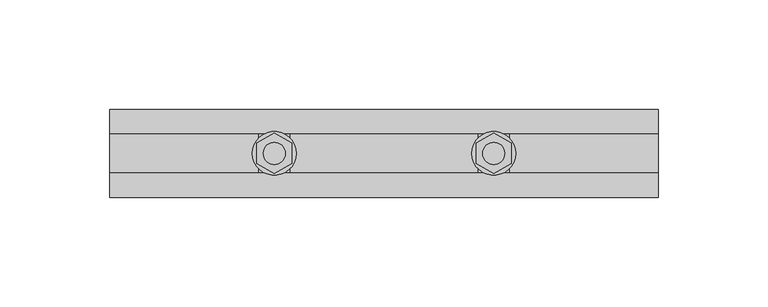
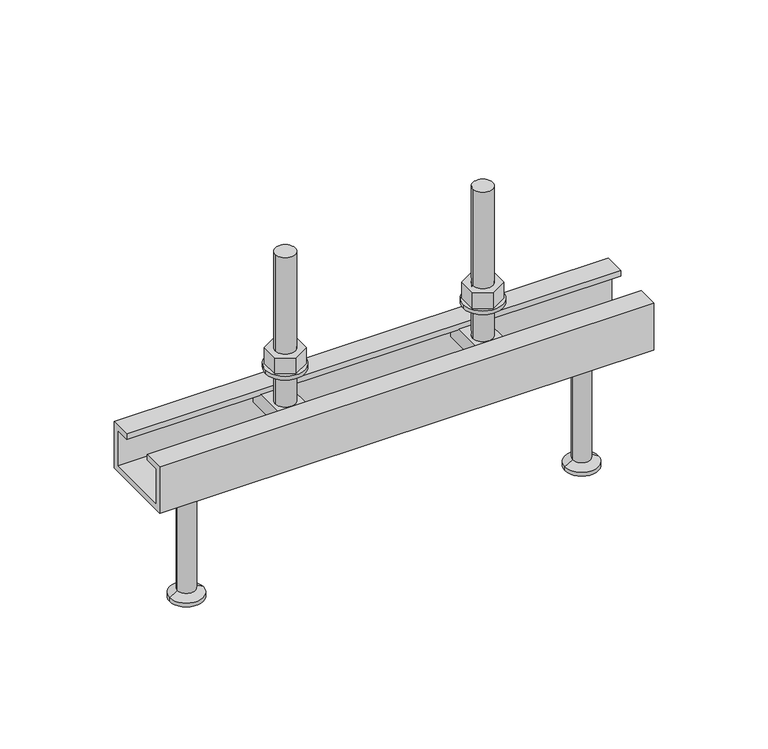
"""IFC4 building model written with IfcOpenShell, lengths in millimetres: fastener geometry, JTA-K JORDAHL® AnchorChannels : JTA-K L=250 mm."""

from ifc_helpers import new_model, si_unit, point, frame, frame_2d, origin, place, context, project, spatial, polyline, circle_curve, trimmed, segment, composite_curve, outline, extrude, source, transform, mapped, element, save
from ifc_brep_helpers import plane_surface, cylinder_surface, revolved_surface, advanced_brep


def fastener_072ff4f7(model_context):
    return source(origin(), model_context, "Body", "SolidModel", [
        extrude(outline(polyline([(175.0, -9.2376043), (167.0, -4.6188022), (167.0, 4.6188022), (175.0, 9.2376043), (183.0, 4.6188022), (183.0, -4.6188022), (175.0, -9.2376043)]), holes=[composite_curve([segment(trimmed(circle_curve(frame_2d((175.0, 0.0)), 5.0), [point((170.0, 0.0))], [point((180.0, 0.0))], True, "CARTESIAN"), True, "CONTINUOUS"), segment(trimmed(circle_curve(frame_2d((175.0, 0.0)), 5.0), [point((180.0, 0.0))], [point((170.0, 0.0))], True, "CARTESIAN"), True, "CONTINUOUS")], self_intersect=False)]), frame((0.0, 0.0, 17.0), z_axis=(0.0, 0.0, 1.0), x_axis=(1.0, 0.0, 0.0)), (0.0, 0.0, 1.0), 8.4),
        extrude(outline(composite_curve([segment(trimmed(circle_curve(frame_2d((175.0, 0.0)), 10.0), [point((165.0, 0.0))], [point((185.0, 0.0))], False, "CARTESIAN"), True, "CONTINUOUS"), segment(trimmed(circle_curve(frame_2d((175.0, 0.0)), 10.0), [point((185.0, 0.0))], [point((165.0, 0.0))], False, "CARTESIAN"), True, "CONTINUOUS")], self_intersect=False), holes=[composite_curve([segment(trimmed(circle_curve(frame_2d((175.0, 0.0)), 5.25), [point((169.75, 0.0))], [point((180.25, 0.0))], True, "CARTESIAN"), True, "CONTINUOUS"), segment(trimmed(circle_curve(frame_2d((175.0, 0.0)), 5.25), [point((180.25, 0.0))], [point((169.75, 0.0))], True, "CARTESIAN"), True, "CONTINUOUS")], self_intersect=False)]), frame((0.0, 0.0, 15.0), z_axis=(0.0, 0.0, 1.0), x_axis=(1.0, 0.0, 0.0)), (0.0, 0.0, 1.0), 2.0),
        extrude(outline(polyline([(75.0, -9.2376043), (67.0, -4.6188022), (67.0, 4.6188022), (75.0, 9.2376043), (83.0, 4.6188022), (83.0, -4.6188022), (75.0, -9.2376043)]), holes=[composite_curve([segment(trimmed(circle_curve(frame_2d((75.0, 0.0)), 5.0), [point((70.0, 0.0))], [point((80.0, 0.0))], True, "CARTESIAN"), True, "CONTINUOUS"), segment(trimmed(circle_curve(frame_2d((75.0, 0.0)), 5.0), [point((80.0, 0.0))], [point((70.0, 0.0))], True, "CARTESIAN"), True, "CONTINUOUS")], self_intersect=False)]), frame((0.0, 0.0, 17.0), z_axis=(0.0, 0.0, 1.0), x_axis=(1.0, 0.0, 0.0)), (0.0, 0.0, 1.0), 8.4),
        extrude(outline(composite_curve([segment(trimmed(circle_curve(frame_2d((75.0, 0.0)), 10.0), [point((65.0, 0.0))], [point((85.0, 0.0))], False, "CARTESIAN"), True, "CONTINUOUS"), segment(trimmed(circle_curve(frame_2d((75.0, 0.0)), 10.0), [point((85.0, 0.0))], [point((65.0, 0.0))], False, "CARTESIAN"), True, "CONTINUOUS")], self_intersect=False), holes=[composite_curve([segment(trimmed(circle_curve(frame_2d((75.0, 0.0)), 5.25), [point((69.75, 0.0))], [point((80.25, 0.0))], True, "CARTESIAN"), True, "CONTINUOUS"), segment(trimmed(circle_curve(frame_2d((75.0, 0.0)), 5.25), [point((80.25, 0.0))], [point((69.75, 0.0))], True, "CARTESIAN"), True, "CONTINUOUS")], self_intersect=False)]), frame((0.0, 0.0, 15.0), z_axis=(0.0, 0.0, 1.0), x_axis=(1.0, 0.0, 0.0)), (0.0, 0.0, 1.0), 2.0),
        advanced_brep(
        [(182.0, -16.0, -3.0), (182.0, -16.0, -11.0), (182.0, 16.0, -11.0), (182.0, 16.0, -3.0), (168.0, -16.0, -3.0), (168.0, 16.0, -3.0), (168.0, 16.0, -11.0), (168.0, -16.0, -11.0), (180.0, 0.0, -3.0), (170.0, 0.0, -3.0), (170.0, 0.0, 77.0), (180.0, 0.0, 77.0)],
        [
            (0, 1),
            (1, 2),
            (2, 3),
            (3, 0),
            (4, 5),
            (5, 6),
            (6, 7),
            (7, 4),
            (3, 5),
            (4, 0),
            (8, 9, circle_curve(frame((175.0, 0.0, -3.0), z_axis=(0.0, 0.0, -1.0), x_axis=(1.0, 0.0, 0.0)), 5.0)),
            (9, 8, circle_curve(frame((175.0, 0.0, -3.0), z_axis=(0.0, 0.0, -1.0), x_axis=(1.0, 0.0, 0.0)), 5.0)),
            (2, 6),
            (1, 7),
            (10, 11, circle_curve(frame((175.0, 0.0, 77.0), z_axis=(0.0, 0.0, 1.0), x_axis=(1.0, 0.0, 0.0)), 5.0)),
            (11, 10, circle_curve(frame((175.0, 0.0, 77.0), z_axis=(0.0, 0.0, 1.0), x_axis=(1.0, 0.0, 0.0)), 5.0)),
            (11, 8),
            (9, 10),
        ],
        [
            plane_surface(frame((182.0, 16.0, -3.0), z_axis=(1.0, 0.0, 0.0), x_axis=(0.0, 1.0, 0.0))),
            plane_surface(frame((168.0, 16.0, -3.0), z_axis=(-1.0, 0.0, 0.0), x_axis=(0.0, -1.0, 0.0))),
            plane_surface(frame((182.0, -16.0, -3.0), z_axis=(0.0, 0.0, 1.0), x_axis=(-1.0, 0.0, 0.0))),
            plane_surface(frame((182.0, 16.0, -3.0), z_axis=(0.0, 1.0, 0.0), x_axis=(-1.0, 0.0, 0.0))),
            plane_surface(frame((182.0, 16.0, -11.0), z_axis=(0.0, 0.0, -1.0), x_axis=(-1.0, 0.0, 0.0))),
            plane_surface(frame((182.0, -16.0, -11.0), z_axis=(0.0, -1.0, 0.0), x_axis=(-1.0, 0.0, 0.0))),
            plane_surface(frame((180.0, 0.0, 77.0), z_axis=(0.0, 0.0, 1.0), x_axis=(0.0, -1.0, 0.0))),
            cylinder_surface(frame((175.0, 0.0, -3.0), z_axis=(0.0, 0.0, 1.0), x_axis=(1.0, 0.0, 0.0)), 5.0),
        ],
        [
            (0, [[1, 2, 3, 4]]),
            (1, [[5, 6, 7, 8]]),
            (2, [[9, -5, 10, -4], [11, 12]]),
            (3, [[13, -6, -9, -3]]),
            (4, [[14, -7, -13, -2]]),
            (5, [[-10, -8, -14, -1]]),
            (6, [[15, 16]]),
            (7, [[17, -12, 18, -16]]),
            (7, [[-18, -11, -17, -15]]),
        ],
    ),
        advanced_brep(
        [(82.0, -16.0, -3.0), (82.0, -16.0, -11.0), (82.0, 16.0, -11.0), (82.0, 16.0, -3.0), (68.0, -16.0, -3.0), (68.0, 16.0, -3.0), (68.0, 16.0, -11.0), (68.0, -16.0, -11.0), (80.0, 0.0, -3.0), (70.0, 0.0, -3.0), (70.0, 0.0, 77.0), (80.0, 0.0, 77.0)],
        [
            (0, 1),
            (1, 2),
            (2, 3),
            (3, 0),
            (4, 5),
            (5, 6),
            (6, 7),
            (7, 4),
            (3, 5),
            (4, 0),
            (8, 9, circle_curve(frame((75.0, 0.0, -3.0), z_axis=(0.0, 0.0, -1.0), x_axis=(1.0, 0.0, 0.0)), 5.0)),
            (9, 8, circle_curve(frame((75.0, 0.0, -3.0), z_axis=(0.0, 0.0, -1.0), x_axis=(1.0, 0.0, 0.0)), 5.0)),
            (2, 6),
            (1, 7),
            (10, 11, circle_curve(frame((75.0, 0.0, 77.0), z_axis=(0.0, 0.0, 1.0), x_axis=(1.0, 0.0, 0.0)), 5.0)),
            (11, 10, circle_curve(frame((75.0, 0.0, 77.0), z_axis=(0.0, 0.0, 1.0), x_axis=(1.0, 0.0, 0.0)), 5.0)),
            (11, 8),
            (9, 10),
        ],
        [
            plane_surface(frame((82.0, 16.0, -3.0), z_axis=(1.0, 0.0, 0.0), x_axis=(0.0, 1.0, 0.0))),
            plane_surface(frame((68.0, 16.0, -3.0), z_axis=(-1.0, 0.0, 0.0), x_axis=(0.0, -1.0, 0.0))),
            plane_surface(frame((82.0, -16.0, -3.0), z_axis=(0.0, 0.0, 1.0), x_axis=(-1.0, 0.0, 0.0))),
            plane_surface(frame((82.0, 16.0, -3.0), z_axis=(0.0, 1.0, 0.0), x_axis=(-1.0, 0.0, 0.0))),
            plane_surface(frame((82.0, 16.0, -11.0), z_axis=(0.0, 0.0, -1.0), x_axis=(-1.0, 0.0, 0.0))),
            plane_surface(frame((82.0, -16.0, -11.0), z_axis=(0.0, -1.0, 0.0), x_axis=(-1.0, 0.0, 0.0))),
            plane_surface(frame((80.0, 0.0, 77.0), z_axis=(0.0, 0.0, 1.0), x_axis=(0.0, -1.0, 0.0))),
            cylinder_surface(frame((75.0, 0.0, -3.0), z_axis=(0.0, 0.0, 1.0), x_axis=(1.0, 0.0, 0.0)), 5.0),
        ],
        [
            (0, [[1, 2, 3, 4]]),
            (1, [[5, 6, 7, 8]]),
            (2, [[9, -5, 10, -4], [11, 12]]),
            (3, [[13, -6, -9, -3]]),
            (4, [[14, -7, -13, -2]]),
            (5, [[-10, -8, -14, -1]]),
            (6, [[15, 16]]),
            (7, [[17, -12, 18, -16]]),
            (7, [[-18, -11, -17, -15]]),
        ],
    ),
        advanced_brep(
        [(225.0, 0.0, -25.0), (211.5, 0.0, -25.0), (238.5, 0.0, -25.0), (216.5, 0.0, -90.0), (225.0, 0.0, -90.0), (233.5, 0.0, -90.0), (216.5, 0.0, -88.0), (233.5, 0.0, -88.0), (220.5, 0.0, -85.6905989), (229.5, 0.0, -85.6905989), (220.5, 0.0, -27.5), (229.5, 0.0, -27.5)],
        [
            (0, 1),
            (1, 2, circle_curve(frame((225.0, 0.0, -25.0), z_axis=(0.0, 0.0, 1.0), x_axis=(1.0, 0.0, 0.0)), 13.5)),
            (2, 0),
            (2, 1, circle_curve(frame((225.0, 0.0, -25.0), z_axis=(0.0, 0.0, 1.0), x_axis=(1.0, 0.0, 0.0)), 13.5)),
            (3, 4),
            (4, 5),
            (5, 3, circle_curve(frame((225.0, 0.0, -90.0), z_axis=(0.0, 0.0, -1.0), x_axis=(1.0, 0.0, 0.0)), 8.5)),
            (3, 5, circle_curve(frame((225.0, 0.0, -90.0), z_axis=(0.0, 0.0, -1.0), x_axis=(1.0, 0.0, 0.0)), 8.5)),
            (6, 3),
            (5, 7),
            (7, 6, circle_curve(frame((225.0, 0.0, -88.0), z_axis=(0.0, 0.0, -1.0), x_axis=(1.0, 0.0, 0.0)), 8.5)),
            (6, 7, circle_curve(frame((225.0, 0.0, -88.0), z_axis=(0.0, 0.0, -1.0), x_axis=(1.0, 0.0, 0.0)), 8.5)),
            (8, 6),
            (7, 9),
            (9, 8, circle_curve(frame((225.0, 0.0, -85.6905989), z_axis=(0.0, 0.0, -1.0), x_axis=(1.0, 0.0, 0.0)), 4.5)),
            (8, 9, circle_curve(frame((225.0, 0.0, -85.6905989), z_axis=(0.0, 0.0, -1.0), x_axis=(1.0, 0.0, 0.0)), 4.5)),
            (10, 8),
            (9, 11),
            (11, 10, circle_curve(frame((225.0, 0.0, -27.5), z_axis=(0.0, 0.0, -1.0), x_axis=(1.0, 0.0, 0.0)), 4.5)),
            (10, 11, circle_curve(frame((225.0, 0.0, -27.5), z_axis=(0.0, 0.0, -1.0), x_axis=(1.0, 0.0, 0.0)), 4.5)),
            (1, 10),
            (11, 2),
        ],
        [
            plane_surface(frame((225.0, 0.0, -25.0), z_axis=(0.0, 0.0, 1.0), x_axis=(1.0, 0.0, 0.0))),
            plane_surface(frame((225.0, 0.0, -90.0), z_axis=(0.0, 0.0, -1.0), x_axis=(1.0, 0.0, 0.0))),
            cylinder_surface(frame((225.0, 0.0, 2279.3150031), z_axis=(0.0, 0.0, 1.0), x_axis=(1.0, 0.0, 0.0)), 8.5),
            revolved_surface(polyline([(233.5, 0.0, -88.0), (229.5, 0.0, -85.6905989)]), (225.0, 0.0, 2279.3150031), (0.0, 0.0, 1.0)),
            cylinder_surface(frame((225.0, 0.0, 2279.3150031), z_axis=(0.0, 0.0, 1.0), x_axis=(1.0, 0.0, 0.0)), 4.5),
            revolved_surface(polyline([(229.5, 0.0, -27.5), (238.5, 0.0, -25.0)]), (225.0, 0.0, 2279.3150031), (0.0, 0.0, 1.0)),
        ],
        [
            (0, [[1, 2, 3]]),
            (0, [[-3, 4, -1]]),
            (1, [[5, 6, 7]]),
            (1, [[-6, -5, 8]]),
            (2, [[9, -7, 10, 11]]),
            (2, [[-10, -8, -9, 12]]),
            (3, [[13, -11, 14, 15]]),
            (3, [[-14, -12, -13, 16]]),
            (4, [[17, -15, 18, 19]]),
            (4, [[-18, -16, -17, 20]]),
            (5, [[21, -19, 22, -2]]),
            (5, [[-22, -20, -21, -4]]),
        ],
    ),
        advanced_brep(
        [(25.0, 0.0, -25.0), (11.5, 0.0, -25.0), (38.5, 0.0, -25.0), (16.5, 0.0, -90.0), (25.0, 0.0, -90.0), (33.5, 0.0, -90.0), (16.5, 0.0, -88.0), (33.5, 0.0, -88.0), (20.5, 0.0, -85.6905989), (29.5, 0.0, -85.6905989), (20.5, 0.0, -27.5), (29.5, 0.0, -27.5)],
        [
            (0, 1),
            (1, 2, circle_curve(frame((25.0, 0.0, -25.0), z_axis=(0.0, 0.0, 1.0), x_axis=(1.0, 0.0, 0.0)), 13.5)),
            (2, 0),
            (2, 1, circle_curve(frame((25.0, 0.0, -25.0), z_axis=(0.0, 0.0, 1.0), x_axis=(1.0, 0.0, 0.0)), 13.5)),
            (3, 4),
            (4, 5),
            (5, 3, circle_curve(frame((25.0, 0.0, -90.0), z_axis=(0.0, 0.0, -1.0), x_axis=(1.0, 0.0, 0.0)), 8.5)),
            (3, 5, circle_curve(frame((25.0, 0.0, -90.0), z_axis=(0.0, 0.0, -1.0), x_axis=(1.0, 0.0, 0.0)), 8.5)),
            (6, 3),
            (5, 7),
            (7, 6, circle_curve(frame((25.0, 0.0, -88.0), z_axis=(0.0, 0.0, -1.0), x_axis=(1.0, 0.0, 0.0)), 8.5)),
            (6, 7, circle_curve(frame((25.0, 0.0, -88.0), z_axis=(0.0, 0.0, -1.0), x_axis=(1.0, 0.0, 0.0)), 8.5)),
            (8, 6),
            (7, 9),
            (9, 8, circle_curve(frame((25.0, 0.0, -85.6905989), z_axis=(0.0, 0.0, -1.0), x_axis=(1.0, 0.0, 0.0)), 4.5)),
            (8, 9, circle_curve(frame((25.0, 0.0, -85.6905989), z_axis=(0.0, 0.0, -1.0), x_axis=(1.0, 0.0, 0.0)), 4.5)),
            (10, 8),
            (9, 11),
            (11, 10, circle_curve(frame((25.0, 0.0, -27.5), z_axis=(0.0, 0.0, -1.0), x_axis=(1.0, 0.0, 0.0)), 4.5)),
            (10, 11, circle_curve(frame((25.0, 0.0, -27.5), z_axis=(0.0, 0.0, -1.0), x_axis=(1.0, 0.0, 0.0)), 4.5)),
            (1, 10),
            (11, 2),
        ],
        [
            plane_surface(frame((25.0, 0.0, -25.0), z_axis=(0.0, 0.0, 1.0), x_axis=(1.0, 0.0, 0.0))),
            plane_surface(frame((25.0, 0.0, -90.0), z_axis=(0.0, 0.0, -1.0), x_axis=(1.0, 0.0, 0.0))),
            cylinder_surface(frame((25.0, 0.0, 2279.3150031), z_axis=(0.0, 0.0, 1.0), x_axis=(1.0, 0.0, 0.0)), 8.5),
            revolved_surface(polyline([(33.5, 0.0, -88.0), (29.5, 0.0, -85.6905989)]), (25.0, 0.0, 2279.3150031), (0.0, 0.0, 1.0)),
            cylinder_surface(frame((25.0, 0.0, 2279.3150031), z_axis=(0.0, 0.0, 1.0), x_axis=(1.0, 0.0, 0.0)), 4.5),
            revolved_surface(polyline([(29.5, 0.0, -27.5), (38.5, 0.0, -25.0)]), (25.0, 0.0, 2279.3150031), (0.0, 0.0, 1.0)),
        ],
        [
            (0, [[1, 2, 3]]),
            (0, [[-3, 4, -1]]),
            (1, [[5, 6, 7]]),
            (1, [[-6, -5, 8]]),
            (2, [[9, -7, 10, 11]]),
            (2, [[-10, -8, -9, 12]]),
            (3, [[13, -11, 14, 15]]),
            (3, [[-14, -12, -13, 16]]),
            (4, [[17, -15, 18, 19]]),
            (4, [[-18, -16, -17, 20]]),
            (5, [[21, -19, 22, -2]]),
            (5, [[-22, -20, -21, -4]]),
        ],
    ),
        extrude(outline(polyline([(-20.0, 0.0), (-9.0, 0.0), (-9.0, -3.0), (-17.0, -3.0), (-17.0, -22.0), (17.0, -22.0), (17.0, -3.0), (9.0, -3.0), (9.0, 0.0), (20.0, 0.0), (20.0, -25.0), (-20.0, -25.0), (-20.0, 0.0)])), frame((0.0, 0.0, 0.0), z_axis=(1.0, 0.0, 0.0), x_axis=(0.0, 1.0, 0.0)), (0.0, 0.0, 1.0), 250.0),
    ])


if __name__ == "__main__":
    model = new_model("IFC4")
    model_context = context("Model", 3, world=origin())
    ifc_project = project(units=[si_unit("LENGTHUNIT", "METRE", prefix="MILLI")], contexts=[model_context])
    site = spatial("IfcSite", under=ifc_project)
    building = spatial("IfcBuilding", under=site)
    placement = place(None, origin())
    fastener_shape = fastener_072ff4f7(model_context)
    element("IfcFastener", 1, ObjectType="JTA-K JORDAHL® AnchorChannels : JTA-K L=250 mm", at=placement, inside=building, context=model_context, shape_type="MappedRepresentation", body=[
        mapped(fastener_shape, transform((0.0, 0.0, 0.0), x_axis=(1.0, 0.0, 0.0), y_axis=(0.0, 1.0, 0.0), z_axis=(0.0, 0.0, 1.0))),
    ])
    save(model, "model.ifc")
